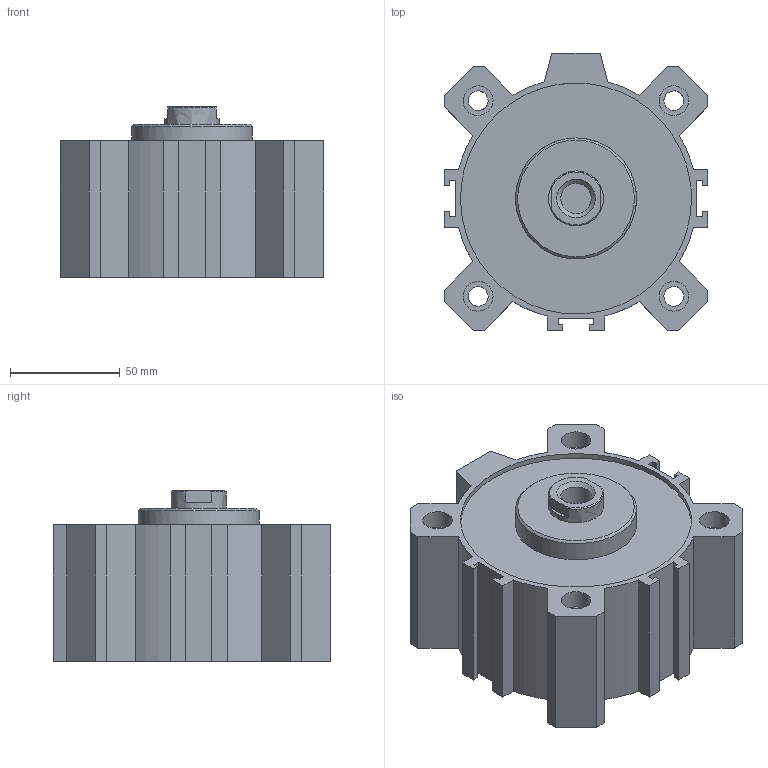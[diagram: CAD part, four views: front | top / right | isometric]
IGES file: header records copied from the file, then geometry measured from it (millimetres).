
Global section: file name: 1511_100_0010; native system: Autodesk Inventor 2014; preprocessor: unknown; author: A. Manieri; date: 20160824.162513; units: millimetre
Bounding box: 120 x 126 x 77.5 mm (x, y, z)
Volume: 638430.1 mm3; surface area: 124768 mm2
Topology: 2 solids, 2 shells, 119 faces, 307 edges, 210 vertices
Faces by surface type: bspline 119
